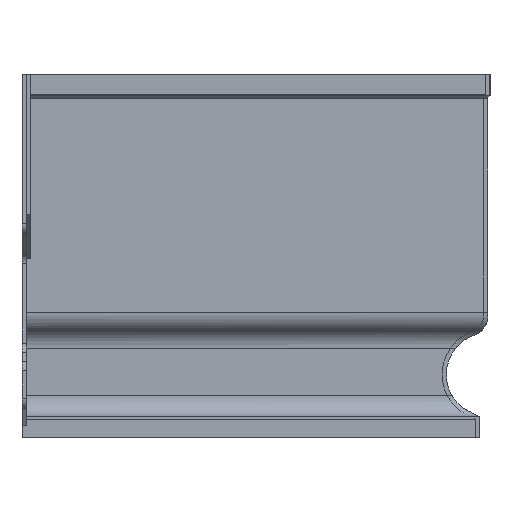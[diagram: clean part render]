
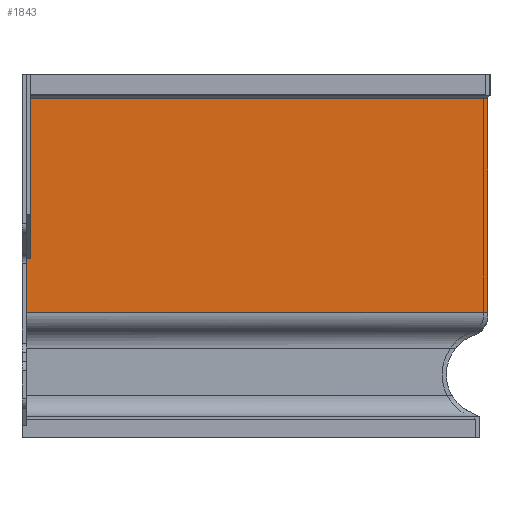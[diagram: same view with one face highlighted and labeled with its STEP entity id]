
A CAD part, left-side view. The second image highlights one B-rep face of the part: STEP entity #1843.
In plain terms, the highlighted planar face has unit normal (-1, 0, 0).
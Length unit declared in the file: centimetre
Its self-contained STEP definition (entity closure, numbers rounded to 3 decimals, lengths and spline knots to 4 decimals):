
#193=FACE_OUTER_BOUND('',#296,.T.);
#296=EDGE_LOOP('',(#1575,#1576,#1577,#1578,#1579,#1580,#1581));
#435=LINE('',#2902,#634);
#443=LINE('',#2918,#642);
#465=LINE('',#2982,#664);
#476=LINE('',#3019,#675);
#479=LINE('',#3064,#678);
#487=LINE('',#3147,#686);
#495=LINE('',#3189,#694);
#634=VECTOR('',#2257,0.4);
#642=VECTOR('',#2269,15.3262);
#664=VECTOR('',#2321,43.9);
#675=VECTOR('',#2350,5.1738);
#678=VECTOR('',#2361,44.4);
#686=VECTOR('',#2385,20.6);
#694=VECTOR('',#2405,0.1414);
#834=VERTEX_POINT('',#2898);
#836=VERTEX_POINT('',#2901);
#842=VERTEX_POINT('',#2917);
#869=VERTEX_POINT('',#2981);
#886=VERTEX_POINT('',#3017);
#892=VERTEX_POINT('',#3062);
#901=VERTEX_POINT('',#3145);
#1050=EDGE_CURVE('',#836,#834,#435,.T.);
#1058=EDGE_CURVE('',#842,#836,#443,.T.);
#1090=EDGE_CURVE('',#869,#842,#465,.T.);
#1109=EDGE_CURVE('',#886,#834,#476,.T.);
#1117=EDGE_CURVE('',#892,#886,#479,.T.);
#1133=EDGE_CURVE('',#892,#901,#487,.T.);
#1143=EDGE_CURVE('',#901,#869,#495,.T.);
#1575=ORIENTED_EDGE('',*,*,#1050,.T.);
#1576=ORIENTED_EDGE('',*,*,#1109,.F.);
#1577=ORIENTED_EDGE('',*,*,#1117,.F.);
#1578=ORIENTED_EDGE('',*,*,#1133,.T.);
#1579=ORIENTED_EDGE('',*,*,#1143,.T.);
#1580=ORIENTED_EDGE('',*,*,#1090,.T.);
#1581=ORIENTED_EDGE('',*,*,#1058,.T.);
#1762=PLANE('',#1990);
#1843=ADVANCED_FACE('',(#193),#1762,.F.);
#1990=AXIS2_PLACEMENT_3D('',#3206,#2424,#2425);
#2257=DIRECTION('',(0.,1.,0.));
#2269=DIRECTION('',(0.,0.,-1.));
#2321=DIRECTION('',(0.,1.,0.));
#2350=DIRECTION('',(0.,0.,1.));
#2361=DIRECTION('',(0.,1.,0.));
#2385=DIRECTION('',(0.,0.,1.));
#2405=DIRECTION('',(0.,0.707,-0.707));
#2424=DIRECTION('center_axis',(1.,0.,0.));
#2425=DIRECTION('ref_axis',(0.,0.,-1.));
#2898=CARTESIAN_POINT('',(-65.5,-0.4,17.2738));
#2901=CARTESIAN_POINT('',(-65.5,-0.8,17.2738));
#2902=CARTESIAN_POINT('',(-65.5,-11.3074,17.2738));
#2917=CARTESIAN_POINT('',(-65.5,-0.8,32.6));
#2918=CARTESIAN_POINT('',(-65.5,-0.8,22.1595));
#2981=CARTESIAN_POINT('',(-65.5,-44.7,32.6));
#2982=CARTESIAN_POINT('',(-65.5,0.,32.6));
#3017=CARTESIAN_POINT('',(-65.5,-0.4,12.1));
#3019=CARTESIAN_POINT('',(-65.5,-0.4,17.6255));
#3062=CARTESIAN_POINT('',(-65.5,-44.8,12.1));
#3064=CARTESIAN_POINT('',(-65.5,-33.5074,12.1));
#3145=CARTESIAN_POINT('',(-65.5,-44.8,32.7));
#3147=CARTESIAN_POINT('',(-65.5,-44.8,32.6));
#3189=CARTESIAN_POINT('',(-65.5,-35.3558,23.2558));
#3206=CARTESIAN_POINT('Origin',(-65.5,-22.2147,17.4086));
